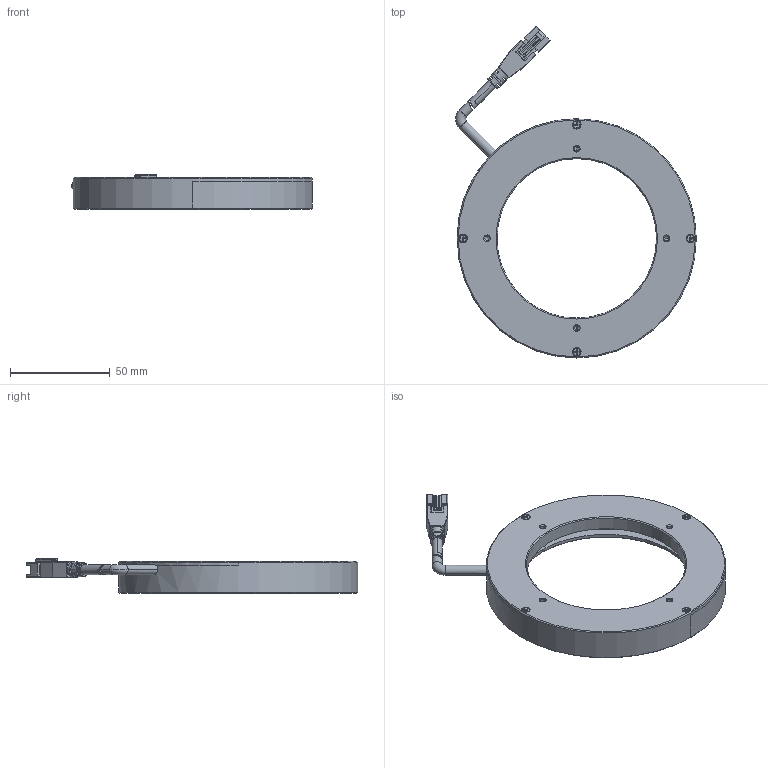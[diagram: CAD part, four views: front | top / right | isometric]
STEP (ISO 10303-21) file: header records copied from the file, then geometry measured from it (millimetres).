
FILE_DESCRIPTION((''),'2;1');
FILE_NAME('MV-LRDS-120-00-X','2023-09-15T16:40:21',('qiaoxuan5'),(''),'CREO PARAMETRIC BY PTC INC, 2020044','CREO PARAMETRIC BY PTC INC, 2020044','');
FILE_SCHEMA(('CONFIG_CONTROL_DESIGN'));
Length unit declared in the file: millimetre
Products named in the file (1): MV-LRDS-120-00-X
Bounding box: 120.75 x 166.53 x 17.2 mm (x, y, z)
Volume: 80108.7 mm3; surface area: 32301.2 mm2
Topology: 2 solids, 10 shells, 475 faces, 1167 edges, 705 vertices
Faces by surface type: plane 246, cylinder 130, cone 63, torus 18, sphere 8, bspline 8, extrusion 2
Entity records: 14395 total; most frequent: CARTESIAN_POINT 3206, DIRECTION 2360, ORIENTED_EDGE 2286, EDGE_CURVE 1143, AXIS2_PLACEMENT_3D 828, VERTEX_POINT 705, VECTOR 704, LINE 702
